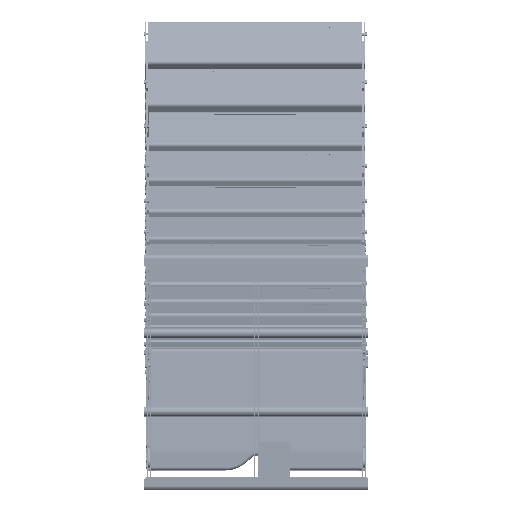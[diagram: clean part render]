
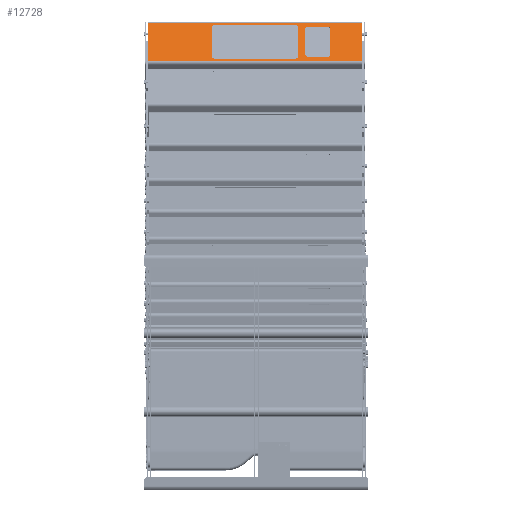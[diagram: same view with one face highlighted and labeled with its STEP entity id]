
A CAD part, top view. The second image highlights one B-rep face of the part: STEP entity #12728.
In plain terms, the highlighted planar face has unit normal (0, 0.669, 0.743) as drawn and (-1, 0, 0) by its records, which use the part's own axes.
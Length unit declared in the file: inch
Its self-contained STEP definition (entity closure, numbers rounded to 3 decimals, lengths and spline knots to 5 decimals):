
#972=CIRCLE('',#13832,0.375);
#973=CIRCLE('',#13833,0.375);
#974=CIRCLE('',#13834,0.375);
#975=CIRCLE('',#13835,0.375);
#976=CIRCLE('',#13836,0.33);
#977=CIRCLE('',#13837,0.33);
#978=CIRCLE('',#13838,0.33);
#979=CIRCLE('',#13839,0.33);
#1512=FACE_BOUND('',#2749,.T.);
#1513=FACE_BOUND('',#2750,.T.);
#1909=FACE_OUTER_BOUND('',#2748,.T.);
#2748=EDGE_LOOP('',(#10336,#10337,#10338,#10339));
#2749=EDGE_LOOP('',(#10340,#10341,#10342,#10343,#10344,#10345,#10346,#10347));
#2750=EDGE_LOOP('',(#10348,#10349,#10350,#10351,#10352,#10353,#10354,#10355));
#3978=LINE('',#20697,#5096);
#3981=LINE('',#20707,#5099);
#3982=LINE('',#20708,#5100);
#3983=LINE('',#20709,#5101);
#3984=LINE('',#20714,#5102);
#3985=LINE('',#20718,#5103);
#3986=LINE('',#20722,#5104);
#3987=LINE('',#20725,#5105);
#3988=LINE('',#20730,#5106);
#3989=LINE('',#20734,#5107);
#3990=LINE('',#20738,#5108);
#3991=LINE('',#20741,#5109);
#5096=VECTOR('',#16589,27.238);
#5099=VECTOR('',#16600,27.238);
#5100=VECTOR('',#16601,6.45343);
#5101=VECTOR('',#16602,6.45343);
#5102=VECTOR('',#16605,10.25);
#5103=VECTOR('',#16608,5.05);
#5104=VECTOR('',#16611,10.25);
#5105=VECTOR('',#16614,5.05);
#5106=VECTOR('',#16617,2.5);
#5107=VECTOR('',#16620,4.5);
#5108=VECTOR('',#16623,2.5);
#5109=VECTOR('',#16626,4.5);
#6188=VERTEX_POINT('',#20695);
#6189=VERTEX_POINT('',#20696);
#6191=VERTEX_POINT('',#20705);
#6192=VERTEX_POINT('',#20706);
#6193=VERTEX_POINT('',#20710);
#6194=VERTEX_POINT('',#20711);
#6195=VERTEX_POINT('',#20713);
#6196=VERTEX_POINT('',#20715);
#6197=VERTEX_POINT('',#20717);
#6198=VERTEX_POINT('',#20719);
#6199=VERTEX_POINT('',#20721);
#6200=VERTEX_POINT('',#20723);
#6201=VERTEX_POINT('',#20726);
#6202=VERTEX_POINT('',#20727);
#6203=VERTEX_POINT('',#20729);
#6204=VERTEX_POINT('',#20731);
#6205=VERTEX_POINT('',#20733);
#6206=VERTEX_POINT('',#20735);
#6207=VERTEX_POINT('',#20737);
#6208=VERTEX_POINT('',#20739);
#7667=EDGE_CURVE('',#6188,#6189,#3978,.T.);
#7672=EDGE_CURVE('',#6191,#6192,#3981,.T.);
#7673=EDGE_CURVE('',#6191,#6188,#3982,.T.);
#7674=EDGE_CURVE('',#6192,#6189,#3983,.T.);
#7675=EDGE_CURVE('',#6193,#6194,#972,.T.);
#7676=EDGE_CURVE('',#6195,#6193,#3984,.T.);
#7677=EDGE_CURVE('',#6196,#6195,#973,.T.);
#7678=EDGE_CURVE('',#6197,#6196,#3985,.T.);
#7679=EDGE_CURVE('',#6198,#6197,#974,.T.);
#7680=EDGE_CURVE('',#6199,#6198,#3986,.T.);
#7681=EDGE_CURVE('',#6200,#6199,#975,.T.);
#7682=EDGE_CURVE('',#6194,#6200,#3987,.T.);
#7683=EDGE_CURVE('',#6201,#6202,#976,.T.);
#7684=EDGE_CURVE('',#6203,#6201,#3988,.T.);
#7685=EDGE_CURVE('',#6204,#6203,#977,.T.);
#7686=EDGE_CURVE('',#6205,#6204,#3989,.T.);
#7687=EDGE_CURVE('',#6206,#6205,#978,.T.);
#7688=EDGE_CURVE('',#6207,#6206,#3990,.T.);
#7689=EDGE_CURVE('',#6208,#6207,#979,.T.);
#7690=EDGE_CURVE('',#6202,#6208,#3991,.T.);
#10336=ORIENTED_EDGE('',*,*,#7672,.F.);
#10337=ORIENTED_EDGE('',*,*,#7673,.T.);
#10338=ORIENTED_EDGE('',*,*,#7667,.T.);
#10339=ORIENTED_EDGE('',*,*,#7674,.F.);
#10340=ORIENTED_EDGE('',*,*,#7675,.F.);
#10341=ORIENTED_EDGE('',*,*,#7676,.F.);
#10342=ORIENTED_EDGE('',*,*,#7677,.F.);
#10343=ORIENTED_EDGE('',*,*,#7678,.F.);
#10344=ORIENTED_EDGE('',*,*,#7679,.F.);
#10345=ORIENTED_EDGE('',*,*,#7680,.F.);
#10346=ORIENTED_EDGE('',*,*,#7681,.F.);
#10347=ORIENTED_EDGE('',*,*,#7682,.F.);
#10348=ORIENTED_EDGE('',*,*,#7683,.F.);
#10349=ORIENTED_EDGE('',*,*,#7684,.F.);
#10350=ORIENTED_EDGE('',*,*,#7685,.F.);
#10351=ORIENTED_EDGE('',*,*,#7686,.F.);
#10352=ORIENTED_EDGE('',*,*,#7687,.F.);
#10353=ORIENTED_EDGE('',*,*,#7688,.F.);
#10354=ORIENTED_EDGE('',*,*,#7689,.F.);
#10355=ORIENTED_EDGE('',*,*,#7690,.F.);
#12263=PLANE('',#13831);
#12728=ADVANCED_FACE('',(#1909,#1512,#1513),#12263,.T.);
#13831=AXIS2_PLACEMENT_3D('',#20704,#16598,#16599);
#13832=AXIS2_PLACEMENT_3D('',#20712,#16603,#16604);
#13833=AXIS2_PLACEMENT_3D('',#20716,#16606,#16607);
#13834=AXIS2_PLACEMENT_3D('',#20720,#16609,#16610);
#13835=AXIS2_PLACEMENT_3D('',#20724,#16612,#16613);
#13836=AXIS2_PLACEMENT_3D('',#20728,#16615,#16616);
#13837=AXIS2_PLACEMENT_3D('',#20732,#16618,#16619);
#13838=AXIS2_PLACEMENT_3D('',#20736,#16621,#16622);
#13839=AXIS2_PLACEMENT_3D('',#20740,#16624,#16625);
#16589=DIRECTION('',(0.,0.,1.));
#16598=DIRECTION('center_axis',(-1.,0.,0.));
#16599=DIRECTION('ref_axis',(0.,0.,1.));
#16600=DIRECTION('',(0.,0.,1.));
#16601=DIRECTION('',(0.,-1.,0.));
#16602=DIRECTION('',(0.,-1.,0.));
#16603=DIRECTION('center_axis',(-1.,0.,0.));
#16604=DIRECTION('ref_axis',(0.,-1.,0.));
#16605=DIRECTION('',(0.,0.,-1.));
#16606=DIRECTION('center_axis',(-1.,0.,0.));
#16607=DIRECTION('ref_axis',(0.,-1.,0.));
#16608=DIRECTION('',(0.,1.,0.));
#16609=DIRECTION('center_axis',(-1.,0.,0.));
#16610=DIRECTION('ref_axis',(0.,-1.,0.));
#16611=DIRECTION('',(0.,0.,1.));
#16612=DIRECTION('center_axis',(-1.,0.,0.));
#16613=DIRECTION('ref_axis',(0.,-1.,0.));
#16614=DIRECTION('',(0.,-1.,0.));
#16615=DIRECTION('center_axis',(-1.,0.,0.));
#16616=DIRECTION('ref_axis',(0.,-1.,0.));
#16617=DIRECTION('',(0.,0.,-1.));
#16618=DIRECTION('center_axis',(-1.,0.,0.));
#16619=DIRECTION('ref_axis',(0.,-1.,0.));
#16620=DIRECTION('',(0.,1.,0.));
#16621=DIRECTION('center_axis',(-1.,0.,0.));
#16622=DIRECTION('ref_axis',(0.,-1.,0.));
#16623=DIRECTION('',(0.,0.,1.));
#16624=DIRECTION('center_axis',(-1.,0.,0.));
#16625=DIRECTION('ref_axis',(0.,-1.,0.));
#16626=DIRECTION('',(0.,-1.,0.));
#20695=CARTESIAN_POINT('',(-13.0906,-3.22672,-27.607));
#20696=CARTESIAN_POINT('',(-13.0906,-3.22672,-0.369));
#20697=CARTESIAN_POINT('',(-13.0906,-3.22672,-27.607));
#20704=CARTESIAN_POINT('Origin',(-13.0906,-3.22672,-27.976));
#20705=CARTESIAN_POINT('',(-13.0906,3.22672,-27.607));
#20706=CARTESIAN_POINT('',(-13.0906,3.22672,-0.369));
#20707=CARTESIAN_POINT('',(-13.0906,3.22672,-27.607));
#20708=CARTESIAN_POINT('',(-13.0906,3.22672,-27.607));
#20709=CARTESIAN_POINT('',(-13.0906,3.22672,-0.369));
#20710=CARTESIAN_POINT('',(-13.0906,2.9,-19.113));
#20711=CARTESIAN_POINT('',(-13.0906,2.525,-19.488));
#20712=CARTESIAN_POINT('Origin',(-13.0906,2.525,-19.113));
#20713=CARTESIAN_POINT('',(-13.0906,2.9,-8.863));
#20714=CARTESIAN_POINT('',(-13.0906,2.9,-8.863));
#20715=CARTESIAN_POINT('',(-13.0906,2.525,-8.488));
#20716=CARTESIAN_POINT('Origin',(-13.0906,2.525,-8.863));
#20717=CARTESIAN_POINT('',(-13.0906,-2.525,-8.488));
#20718=CARTESIAN_POINT('',(-13.0906,-2.525,-8.488));
#20719=CARTESIAN_POINT('',(-13.0906,-2.9,-8.863));
#20720=CARTESIAN_POINT('Origin',(-13.0906,-2.525,-8.863));
#20721=CARTESIAN_POINT('',(-13.0906,-2.9,-19.113));
#20722=CARTESIAN_POINT('',(-13.0906,-2.9,-19.113));
#20723=CARTESIAN_POINT('',(-13.0906,-2.525,-19.488));
#20724=CARTESIAN_POINT('Origin',(-13.0906,-2.525,-19.113));
#20725=CARTESIAN_POINT('',(-13.0906,2.525,-19.488));
#20726=CARTESIAN_POINT('',(-13.0906,2.58,-23.238));
#20727=CARTESIAN_POINT('',(-13.0906,2.25,-23.568));
#20728=CARTESIAN_POINT('Origin',(-13.0906,2.25,-23.238));
#20729=CARTESIAN_POINT('',(-13.0906,2.58,-20.738));
#20730=CARTESIAN_POINT('',(-13.0906,2.58,-20.738));
#20731=CARTESIAN_POINT('',(-13.0906,2.25,-20.408));
#20732=CARTESIAN_POINT('Origin',(-13.0906,2.25,-20.738));
#20733=CARTESIAN_POINT('',(-13.0906,-2.25,-20.408));
#20734=CARTESIAN_POINT('',(-13.0906,-2.25,-20.408));
#20735=CARTESIAN_POINT('',(-13.0906,-2.58,-20.738));
#20736=CARTESIAN_POINT('Origin',(-13.0906,-2.25,-20.738));
#20737=CARTESIAN_POINT('',(-13.0906,-2.58,-23.238));
#20738=CARTESIAN_POINT('',(-13.0906,-2.58,-23.238));
#20739=CARTESIAN_POINT('',(-13.0906,-2.25,-23.568));
#20740=CARTESIAN_POINT('Origin',(-13.0906,-2.25,-23.238));
#20741=CARTESIAN_POINT('',(-13.0906,2.25,-23.568));
